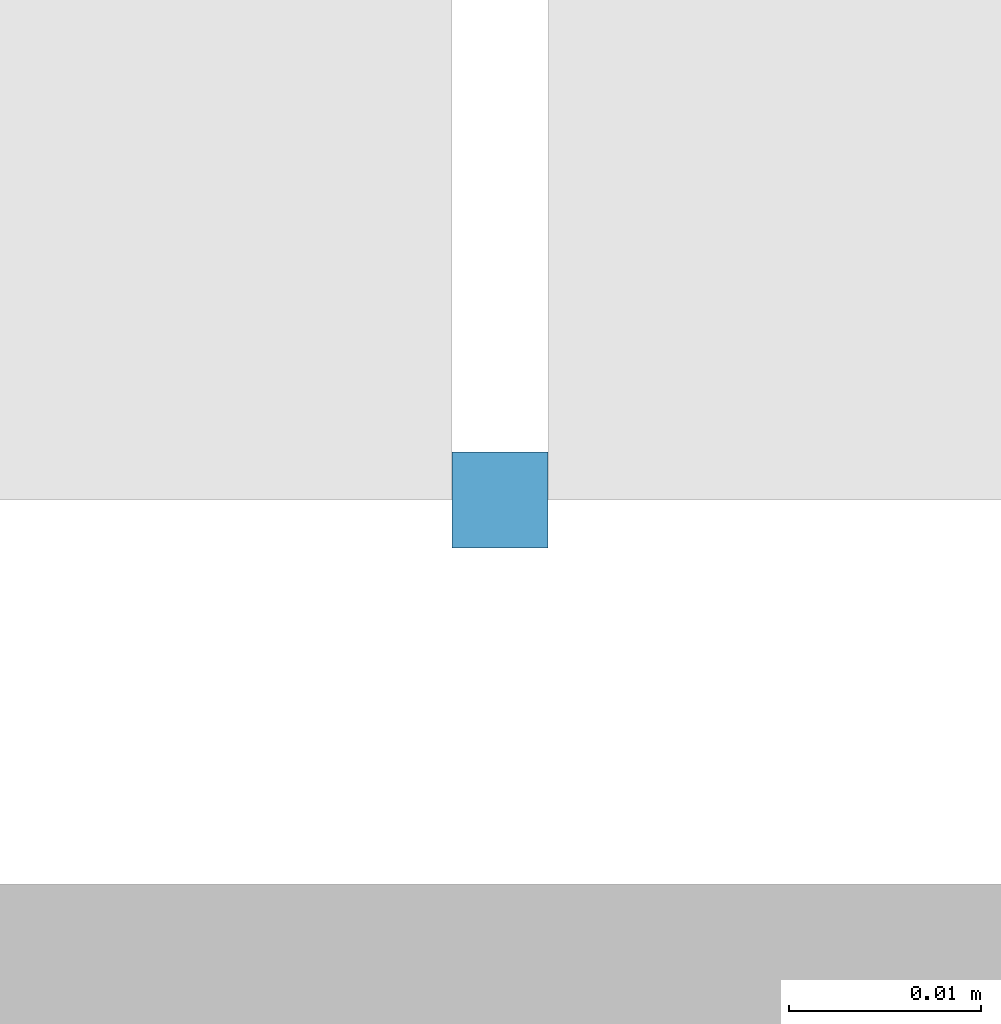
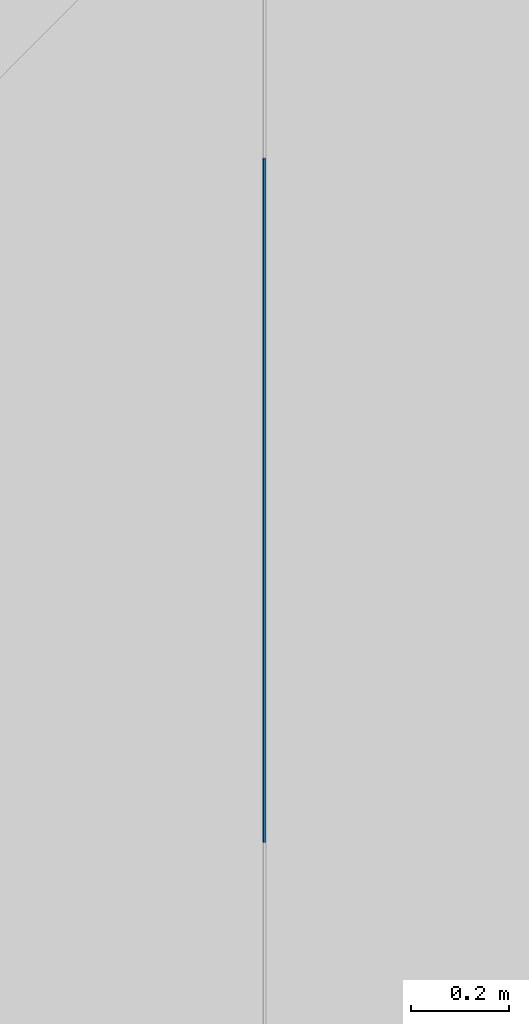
# One storey, part 137 of 302: 1 member, 1 element without a shape of its own.
"""IFC2X3 building model written with IfcOpenShell, lengths in metres."""

import ifcopenshell
import ifcopenshell.guid

model = None  # the IFC model being written
_history = None  # IfcOwnerHistory: only IFC2X3 demands one
_inside = {}  # id of a spatial element -> (the spatial element, [elements in it])
_under = {}  # id of a project, library or spatial element -> (it, [spatial elements below it])
_declared = {}  # id of a project -> (the project, [libraries it declares])
_typed = {}  # id of a type object -> (the type object, [elements of that type])
_made_of = {}  # id of a material, layer set ... -> (it, [elements and type objects made of it])


def new_model(schema):
    """Start an empty IFC model of exactly this schema.

    Asked for "IFC4X3", IfcOpenShell would pick the latest addendum, in which some entities
    have other attributes; the version numbers below select the first issue.
    IFC2X3 requires an IfcOwnerHistory on every rooted entity: one is made here for all.
    """
    global model, _history
    if schema == "IFC4X3":
        model = ifcopenshell.file(schema_version=(4, 3, 0, 0))
    else:
        model = ifcopenshell.file(schema=schema)
    _inside.clear()
    _under.clear()
    _declared.clear()
    _typed.clear()
    _made_of.clear()
    _history = None
    if model.schema == "IFC2X3":
        org = make("IfcOrganization", Name="unknown")
        user = make(
            "IfcPersonAndOrganization",
            ThePerson=make("IfcPerson", FamilyName="unknown"),
            TheOrganization=org,
        )
        app = make(
            "IfcApplication",
            ApplicationDeveloper=org,
            Version="unknown",
            ApplicationFullName="unknown",
            ApplicationIdentifier="unknown",
        )
        _history = make(
            "IfcOwnerHistory",
            OwningUser=user,
            OwningApplication=app,
            ChangeAction="ADDED",
            CreationDate=0,
        )
    return model


def make(cls, **values):
    """One entity of the class cls with the attributes given. An attribute that is None is left unset."""
    return model.create_entity(
        cls, **{name: value for name, value in values.items() if value is not None}
    )


def entity(cls, *values):
    """Any entity or typed value of the class cls, its attributes in the order of the schema. None: left unset."""
    e = model.create_entity(cls)
    for i, value in enumerate(values):
        if value is not None:
            e[i] = value
    return e


def rooted(cls, **values):
    """An entity with a GlobalId (a new one), such as an element, a storey or a relation."""
    return make(cls, GlobalId=ifcopenshell.guid.new(), OwnerHistory=_history, **values)


def si_unit(unit_type, name, prefix=None):
    """IfcSIUnit, for example si_unit("LENGTHUNIT", "METRE", prefix="MILLI")."""
    return make("IfcSIUnit", UnitType=unit_type, Prefix=prefix, Name=name)


def converted_unit(unit_type, name, factor, base, dimensions=None, offset=None):
    """IfcConversionBasedUnit, such as the inch: factor (a typed value) times the base unit."""
    return make(
        "IfcConversionBasedUnit"
        if offset is None
        else "IfcConversionBasedUnitWithOffset",
        ConversionOffset=offset,
        Dimensions=None
        if dimensions is None
        else entity("IfcDimensionalExponents", *dimensions),
        UnitType=unit_type,
        Name=name,
        ConversionFactor=make(
            "IfcMeasureWithUnit", ValueComponent=factor, UnitComponent=base
        ),
    )


def derived_unit(unit_type, elements):
    """IfcDerivedUnit: a product of units, each with its exponent."""
    return make(
        "IfcDerivedUnit",
        Elements=[
            make("IfcDerivedUnitElement", Unit=unit, Exponent=power)
            for unit, power in elements
        ],
        UnitType=unit_type,
    )


def assignment(units):
    """IfcUnitAssignment: the units of a project."""
    return None if units is None else make("IfcUnitAssignment", Units=units)


def point(xyz):
    """IfcCartesianPoint."""
    return None if xyz is None else make("IfcCartesianPoint", Coordinates=xyz)


def direction(xyz):
    """IfcDirection."""
    return None if xyz is None else make("IfcDirection", DirectionRatios=xyz)


def frame(location, z_axis=None, x_axis=None):
    """IfcAxis2Placement3D, a coordinate frame: its origin and axes. An axis left out is left unset."""
    return make(
        "IfcAxis2Placement3D",
        Location=point(location),
        Axis=direction(z_axis),
        RefDirection=direction(x_axis),
    )


def frame_2d(location, x_axis=None):
    """IfcAxis2Placement2D, a coordinate frame in the plane: its origin and x axis."""
    return make(
        "IfcAxis2Placement2D", Location=point(location), RefDirection=direction(x_axis)
    )


def origin():
    """The frame at (0, 0, 0) with its axes left unset."""
    return frame((0.0, 0.0, 0.0))


def place(relative_to, where):
    """IfcLocalPlacement: puts the frame where relative to a parent placement (None: the world)."""
    return make(
        "IfcLocalPlacement", PlacementRelTo=relative_to, RelativePlacement=where
    )


def context(
    kind, dimensions, precision=None, world=None, true_north=None, identifier=None
):
    """IfcGeometricRepresentationContext, for example the 3D "Model" context."""
    return make(
        "IfcGeometricRepresentationContext",
        ContextIdentifier=identifier,
        ContextType=kind,
        CoordinateSpaceDimension=dimensions,
        Precision=precision,
        WorldCoordinateSystem=world,
        TrueNorth=true_north,
    )


def subcontext(parent, identifier, kind, view, scale=None):
    """IfcGeometricRepresentationSubContext, for example "Body" below "Model"."""
    return make(
        "IfcGeometricRepresentationSubContext",
        ContextIdentifier=identifier,
        ContextType=kind,
        ParentContext=parent,
        TargetScale=scale,
        TargetView=view,
    )


def project(units=None, contexts=None):
    """IfcProject with its units and contexts."""
    return rooted(
        "IfcProject",
        Name="project",
        RepresentationContexts=contexts,
        UnitsInContext=assignment(units),
    )


def spatial(cls, under=None, at=None, **own):
    """A site, building, storey or space (cls), placed at a placement, below another one or the project."""
    s = rooted(cls, ObjectPlacement=at, **own)
    if under is not None:
        _under.setdefault(under.id(), (under, []))[1].append(s)
    return s


def profile(cls, at=None, kind="AREA", **sizes):
    """A parametric profile (cls). Its sizes go by their IFC names, for example OverallWidth=200.0."""
    return make(cls, ProfileType=kind, Position=at, **sizes)


def rectangle(**sizes):
    """IfcRectangleProfileDef."""
    return profile("IfcRectangleProfileDef", **sizes)


def extrude(swept, where, along, depth):
    """IfcExtrudedAreaSolid: the profile swept, set in the frame where, extruded along a direction by depth."""
    return make(
        "IfcExtrudedAreaSolid",
        SweptArea=swept,
        Position=where,
        ExtrudedDirection=direction(along),
        Depth=depth,
    )


def shape(context_of_items, identifier, shape_type, items):
    """IfcShapeRepresentation: the items that make up one representation, for example the "Body"."""
    return make(
        "IfcShapeRepresentation",
        ContextOfItems=context_of_items,
        RepresentationIdentifier=identifier,
        RepresentationType=shape_type,
        Items=items,
    )


def source(mapping_origin, context_of_items, identifier, shape_type, items):
    """IfcRepresentationMap: a shape defined once, which mapped items show again and again."""
    return make(
        "IfcRepresentationMap",
        MappingOrigin=mapping_origin,
        MappedRepresentation=shape(context_of_items, identifier, shape_type, items),
    )


def transform(
    local_origin,
    x_axis=None,
    y_axis=None,
    z_axis=None,
    scale=None,
    scale2=None,
    scale3=None,
    uniform=True,
):
    """IfcCartesianTransformationOperator3D, or its non-uniform kind. x_axis, y_axis, z_axis: its Axis1, 2, 3."""
    if uniform:
        return make(
            "IfcCartesianTransformationOperator3D",
            Axis1=direction(x_axis),
            Axis2=direction(y_axis),
            LocalOrigin=point(local_origin),
            Scale=scale,
            Axis3=direction(z_axis),
        )
    return make(
        "IfcCartesianTransformationOperator3DnonUniform",
        Axis1=direction(x_axis),
        Axis2=direction(y_axis),
        LocalOrigin=point(local_origin),
        Scale=scale,
        Axis3=direction(z_axis),
        Scale2=scale2,
        Scale3=scale3,
    )


def mapped(mapping_source, mapping_target):
    """IfcMappedItem: shows the shape of a source again, moved by a transform."""
    return make(
        "IfcMappedItem", MappingSource=mapping_source, MappingTarget=mapping_target
    )


def material(Name=None, Category=None):
    """IfcMaterial."""
    return make("IfcMaterial", Name=Name, Category=Category)


def made_of(thing, what):
    """Note that an element or type object is made of a material, layer set ...; save() writes the relation."""
    if what is not None:
        _made_of.setdefault(what.id(), (what, []))[1].append(thing)
    return thing


def type_object(cls, material=None, **own):
    """A type object (cls), such as IfcWallType, which elements share."""
    return made_of(rooted(cls, **own), material)


def type_shapes(of_type, sources):
    """Give a type object the sources (RepresentationMaps) that its elements show as mapped items."""
    of_type.RepresentationMaps = sources


def element(
    cls,
    number,
    at=None,
    inside=None,
    cuts=None,
    type_object=None,
    material=None,
    context=None,
    identifier="Body",
    shape_type=None,
    held_by="IfcProductDefinitionShape",
    body=None,
    shapes=None,
    **own,
):
    """One element of the class cls, such as IfcWall. Its Tag is "e" and its number.

    at: its placement. inside: the storey or other place that contains it. cuts: it is an
    opening in that element (IfcRelVoidsElement). A single representation is given by context,
    identifier, shape_type and body (its items); several are given by shapes. held_by: the class
    of the entity that holds the representations. save() writes the other relations.
    """
    e = rooted(cls, Tag="e%d" % number, ObjectPlacement=at, **own)
    if body is not None:
        shapes = [shape(context, identifier, shape_type, body)]
    if shapes is not None:
        e.Representation = make(held_by, Representations=shapes)
    if inside is not None:
        _inside.setdefault(inside.id(), (inside, []))[1].append(e)
    if cuts is not None:
        rooted(
            "IfcRelVoidsElement", RelatingBuildingElement=cuts, RelatedOpeningElement=e
        )
    if type_object is not None:
        _typed.setdefault(type_object.id(), (type_object, []))[1].append(e)
    return made_of(e, material)


def aggregate(whole, parts):
    """IfcRelAggregates: a whole, such as a stair, and the parts it consists of."""
    return rooted("IfcRelAggregates", RelatingObject=whole, RelatedObjects=parts)


def save(model, path):
    """Write the relations noted so far, then the file.

    IfcRelAggregates (storeys below a building ...), IfcRelContainedInSpatialStructure (elements
    in a storey), IfcRelDefinesByType, IfcRelAssociatesMaterial and IfcRelDeclares: one each for
    every whole, place, type object, material and project.
    """
    for whole, parts in _under.values():
        aggregate(whole, parts)
    for where, things in _inside.values():
        rooted(
            "IfcRelContainedInSpatialStructure",
            RelatedElements=things,
            RelatingStructure=where,
        )
    for kind, things in _typed.values():
        rooted("IfcRelDefinesByType", RelatedObjects=things, RelatingType=kind)
    for what, things in _made_of.values():
        rooted("IfcRelAssociatesMaterial", RelatedObjects=things, RelatingMaterial=what)
    for by, libraries in _declared.values():
        rooted("IfcRelDeclares", RelatingContext=by, RelatedDefinitions=libraries)
    model.write(path)


model = new_model("IFC2X3")

# Units and contexts
model_context = context("Model", 3, precision=1e-05, world=origin(), true_north=direction((6.12303176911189e-17, 1.0)))
body_context = subcontext(model_context, "Body", "Model", "MODEL_VIEW")
ifc_project = project(units=[si_unit("LENGTHUNIT", "METRE"), si_unit("AREAUNIT", "SQUARE_METRE"), si_unit("VOLUMEUNIT", "CUBIC_METRE"), converted_unit("PLANEANGLEUNIT", "DEGREE", entity("IfcRatioMeasure", 0.0174532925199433), si_unit("PLANEANGLEUNIT", "RADIAN"), dimensions=[0, 0, 0, 0, 0, 0, 0]), si_unit("MASSUNIT", "GRAM", prefix="KILO"), derived_unit("MASSDENSITYUNIT", [(si_unit("MASSUNIT", "GRAM", prefix="KILO"), 1), (si_unit("LENGTHUNIT", "METRE"), -3)]), derived_unit("MOMENTOFINERTIAUNIT", [(si_unit("LENGTHUNIT", "METRE"), 4)]), si_unit("TIMEUNIT", "SECOND"), si_unit("FREQUENCYUNIT", "HERTZ"), si_unit("THERMODYNAMICTEMPERATUREUNIT", "DEGREE_CELSIUS"), derived_unit("THERMALTRANSMITTANCEUNIT", [(si_unit("MASSUNIT", "GRAM", prefix="KILO"), 1), (si_unit("THERMODYNAMICTEMPERATUREUNIT", "KELVIN"), -1), (si_unit("TIMEUNIT", "SECOND"), -3)]), derived_unit("VOLUMETRICFLOWRATEUNIT", [(si_unit("LENGTHUNIT", "METRE"), 3), (si_unit("TIMEUNIT", "SECOND"), -1)]), si_unit("ELECTRICCURRENTUNIT", "AMPERE"), si_unit("ELECTRICVOLTAGEUNIT", "VOLT"), si_unit("POWERUNIT", "WATT"), si_unit("FORCEUNIT", "NEWTON", prefix="KILO"), si_unit("ILLUMINANCEUNIT", "LUX"), si_unit("LUMINOUSFLUXUNIT", "LUMEN"), si_unit("LUMINOUSINTENSITYUNIT", "CANDELA"), derived_unit("USERDEFINED", [(si_unit("MASSUNIT", "GRAM", prefix="KILO"), -1), (si_unit("LENGTHUNIT", "METRE"), -2), (si_unit("TIMEUNIT", "SECOND"), 3), (si_unit("LUMINOUSFLUXUNIT", "LUMEN"), 1)]), derived_unit("LINEARVELOCITYUNIT", [(si_unit("LENGTHUNIT", "METRE"), 1), (si_unit("TIMEUNIT", "SECOND"), -1)]), si_unit("PRESSUREUNIT", "PASCAL"), derived_unit("USERDEFINED", [(si_unit("LENGTHUNIT", "METRE"), -2), (si_unit("MASSUNIT", "GRAM", prefix="KILO"), 1), (si_unit("TIMEUNIT", "SECOND"), -2)]), derived_unit("LINEARFORCEUNIT", [(si_unit("MASSUNIT", "GRAM", prefix="KILO"), 1), (si_unit("LENGTHUNIT", "METRE"), 1), (si_unit("TIMEUNIT", "SECOND"), -2), (si_unit("LENGTHUNIT", "METRE"), -1)]), derived_unit("PLANARFORCEUNIT", [(si_unit("MASSUNIT", "GRAM", prefix="KILO"), 1), (si_unit("LENGTHUNIT", "METRE"), 1), (si_unit("TIMEUNIT", "SECOND"), -2), (si_unit("LENGTHUNIT", "METRE"), -2)])], contexts=[model_context])

# Site, building, storey
site_placement = place(None, origin())
site = spatial("IfcSite", under=ifc_project, at=site_placement, Name="Default", CompositionType="ELEMENT")
building_placement = place(site_placement, origin())
building = spatial("IfcBuilding", under=site, at=building_placement, CompositionType="ELEMENT")
storey_placement = place(building_placement, frame((0.0, 0.0, -1.3)))
storey = spatial("IfcBuildingStorey", under=building, at=storey_placement, Name="00_EG", CompositionType="ELEMENT", Elevation=-1.3)

# Curtain wall, member
curtain_wall_type = type_object("IfcCurtainWallType", Name="Fassade:Curtain Wall 1", PredefinedType="NOTDEFINED")
curtain_wall_placement = place(storey_placement, frame((0.0, 0.0, 1.3)))
curtain_wall = element("IfcCurtainWall", 1, at=curtain_wall_placement, inside=storey, type_object=curtain_wall_type, Name="Fassade:Curtain Wall 1", ObjectType="Fassade:Curtain Wall 1")
ifc_material = material(Name="Aluminium")
member_type = type_object("IfcMemberType", Name="Rectangular Mullion:Paneele Spalt", PredefinedType="MULLION", material=ifc_material)
shared_shape = source(origin(), body_context, "Body", "SweptSolid", [
    extrude(rectangle(XDim=0.005, YDim=0.005, at=frame_2d((0.0, -6.50521303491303e-19), x_axis=(1.0, 0.0))), frame((0.0, 0.0, -1.70964751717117), z_axis=(0.0, 0.0, 1.0), x_axis=(0.0, -1.0, 0.0)), (0.0, 0.0, 1.0), 1.70964751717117),
])
type_shapes(member_type, [shared_shape])
member_placement = place(storey_placement, frame((-208.610111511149, 45.578088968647, 8.49999999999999), z_axis=(0.0, 0.0, -1.0), x_axis=(-1.0, 0.0, 0.0)))
member = element("IfcMember", 2, at=member_placement, type_object=member_type, material=ifc_material, Name="Rectangular Mullion:Paneele Spalt", ObjectType="Rectangular Mullion:Paneele Spalt", context=body_context, shape_type="MappedRepresentation", body=[
    mapped(shared_shape, transform((0.0, 0.0, 0.0), scale=1.0)),
])
aggregate(curtain_wall, [member])

save(model, "model.ifc")
